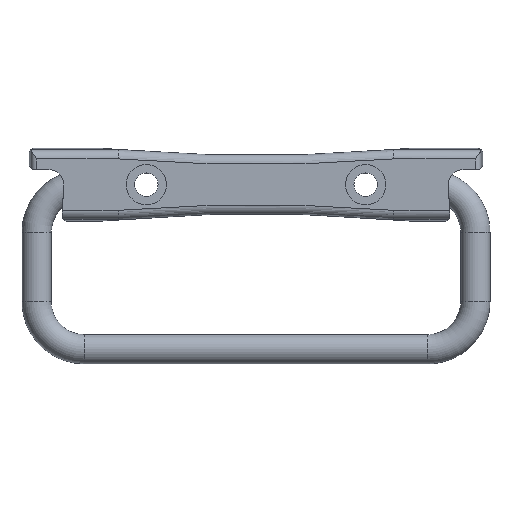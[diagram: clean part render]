
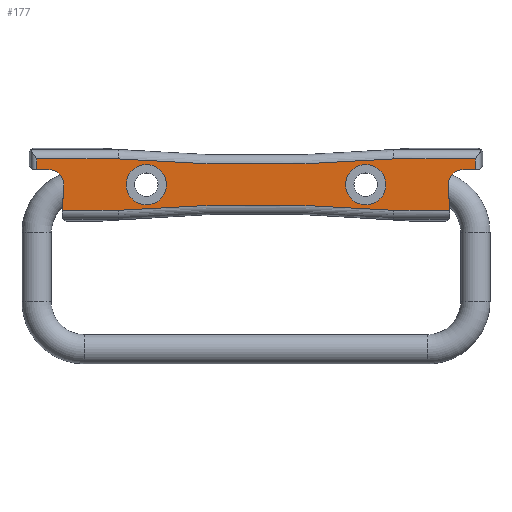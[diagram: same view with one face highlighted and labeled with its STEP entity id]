
A CAD part, top view. The second image highlights one B-rep face of the part: STEP entity #177.
In plain terms, the highlighted planar face has unit normal (0, 0, 1).
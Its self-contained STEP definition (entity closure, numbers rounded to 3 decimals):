
#177 = ADVANCED_FACE( '', ( #254, #255, #256 ), #257, .T. );
#254 = FACE_BOUND( '', #408, .T. );
#255 = FACE_BOUND( '', #409, .T. );
#256 = FACE_OUTER_BOUND( '', #410, .T. );
#257 = PLANE( '', #411 );
#408 = EDGE_LOOP( '', ( #611 ) );
#409 = EDGE_LOOP( '', ( #612 ) );
#410 = EDGE_LOOP( '', ( #613, #614, #615, #616, #617, #618, #619, #620, #621, #622, #623, #624, #625, #626 ) );
#411 = AXIS2_PLACEMENT_3D( '', #627, #628, #629 );
#611 = ORIENTED_EDGE( '', *, *, #1104, .F. );
#612 = ORIENTED_EDGE( '', *, *, #1105, .F. );
#613 = ORIENTED_EDGE( '', *, *, #1100, .T. );
#614 = ORIENTED_EDGE( '', *, *, #1106, .F. );
#615 = ORIENTED_EDGE( '', *, *, #1083, .T. );
#616 = ORIENTED_EDGE( '', *, *, #1082, .F. );
#617 = ORIENTED_EDGE( '', *, *, #1098, .T. );
#618 = ORIENTED_EDGE( '', *, *, #1107, .F. );
#619 = ORIENTED_EDGE( '', *, *, #1108, .T. );
#620 = ORIENTED_EDGE( '', *, *, #1109, .F. );
#621 = ORIENTED_EDGE( '', *, *, #1110, .T. );
#622 = ORIENTED_EDGE( '', *, *, #1111, .F. );
#623 = ORIENTED_EDGE( '', *, *, #1112, .T. );
#624 = ORIENTED_EDGE( '', *, *, #1113, .T. );
#625 = ORIENTED_EDGE( '', *, *, #1114, .T. );
#626 = ORIENTED_EDGE( '', *, *, #1115, .F. );
#627 = CARTESIAN_POINT( '', ( -60.5, -4.4, 16. ) );
#628 = DIRECTION( '', ( 0., 0., 1. ) );
#629 = DIRECTION( '', ( 1., 0., 0. ) );
#1082 = EDGE_CURVE( '', #1256, #1251, #1258, .T. );
#1083 = EDGE_CURVE( '', #1259, #1251, #1260, .T. );
#1098 = EDGE_CURVE( '', #1256, #1285, #1287, .T. );
#1100 = EDGE_CURVE( '', #1291, #1289, #1292, .T. );
#1104 = EDGE_CURVE( '', #1298, #1298, #1299, .T. );
#1105 = EDGE_CURVE( '', #1300, #1300, #1301, .T. );
#1106 = EDGE_CURVE( '', #1259, #1289, #1302, .T. );
#1107 = EDGE_CURVE( '', #1303, #1285, #1304, .T. );
#1108 = EDGE_CURVE( '', #1303, #1305, #1306, .T. );
#1109 = EDGE_CURVE( '', #1307, #1305, #1308, .T. );
#1110 = EDGE_CURVE( '', #1307, #1309, #1310, .T. );
#1111 = EDGE_CURVE( '', #1311, #1309, #1312, .T. );
#1112 = EDGE_CURVE( '', #1311, #1313, #1314, .T. );
#1113 = EDGE_CURVE( '', #1313, #1315, #1316, .T. );
#1114 = EDGE_CURVE( '', #1315, #1317, #1318, .T. );
#1115 = EDGE_CURVE( '', #1291, #1317, #1319, .T. );
#1251 = VERTEX_POINT( '', #1628 );
#1256 = VERTEX_POINT( '', #1653 );
#1258 = CIRCLE( '', #1656, 4.034 );
#1259 = VERTEX_POINT( '', #1657 );
#1260 = LINE( '', #1658, #1659 );
#1285 = VERTEX_POINT( '', #1743 );
#1287 = LINE( '', #1745, #1746 );
#1289 = VERTEX_POINT( '', #1748 );
#1291 = VERTEX_POINT( '', #1761 );
#1292 = LINE( '', #1762, #1763 );
#1298 = VERTEX_POINT( '', #1785 );
#1299 = CIRCLE( '', #1786, 5.5 );
#1300 = VERTEX_POINT( '', #1787 );
#1301 = CIRCLE( '', #1788, 5.5 );
#1302 = LINE( '', #1789, #1790 );
#1303 = VERTEX_POINT( '', #1791 );
#1304 = LINE( '', #1792, #1793 );
#1305 = VERTEX_POINT( '', #1794 );
#1306 = CIRCLE( '', #1795, 465.75 );
#1307 = VERTEX_POINT( '', #1796 );
#1308 = LINE( '', #1797, #1798 );
#1309 = VERTEX_POINT( '', #1799 );
#1310 = LINE( '', #1800, #1801 );
#1311 = VERTEX_POINT( '', #1802 );
#1312 = CIRCLE( '', #1803, 4.034 );
#1313 = VERTEX_POINT( '', #1804 );
#1314 = LINE( '', #1805, #1806 );
#1315 = VERTEX_POINT( '', #1807 );
#1316 = LINE( '', #1808, #1809 );
#1317 = VERTEX_POINT( '', #1810 );
#1318 = LINE( '', #1811, #1812 );
#1319 = CIRCLE( '', #1813, 465.75 );
#1628 = CARTESIAN_POINT( '', ( -56.648, -5.9, 16. ) );
#1653 = CARTESIAN_POINT( '', ( -52.618, -10.119, 16. ) );
#1656 = AXIS2_PLACEMENT_3D( '', #2170, #2171, #2172 );
#1657 = CARTESIAN_POINT( '', ( -59.993, -5.9, 16. ) );
#1658 = CARTESIAN_POINT( '', ( -60.5, -5.9, 16. ) );
#1659 = VECTOR( '', #2173, 1000. );
#1743 = CARTESIAN_POINT( '', ( -52.934, -17.027, 16. ) );
#1745 = CARTESIAN_POINT( '', ( -52.618, -10.119, 16. ) );
#1746 = VECTOR( '', #2189, 1000. );
#1748 = CARTESIAN_POINT( '', ( -59.993, -2.973, 16. ) );
#1761 = CARTESIAN_POINT( '', ( -37.684, -2.973, 16. ) );
#1762 = CARTESIAN_POINT( '', ( 62.5, -2.973, 16. ) );
#1763 = VECTOR( '', #2190, 1000. );
#1785 = CARTESIAN_POINT( '', ( 35.5, -10., 16. ) );
#1786 = AXIS2_PLACEMENT_3D( '', #2195, #2196, #2197 );
#1787 = CARTESIAN_POINT( '', ( -24.5, -10., 16. ) );
#1788 = AXIS2_PLACEMENT_3D( '', #2198, #2199, #2200 );
#1789 = CARTESIAN_POINT( '', ( -59.993, -20., 16. ) );
#1790 = VECTOR( '', #2201, 1000. );
#1791 = CARTESIAN_POINT( '', ( -37.684, -17.027, 16. ) );
#1792 = CARTESIAN_POINT( '', ( 62.5, -17.027, 16. ) );
#1793 = VECTOR( '', #2202, 1000. );
#1794 = CARTESIAN_POINT( '', ( 37.684, -17.027, 16. ) );
#1795 = AXIS2_PLACEMENT_3D( '', #2203, #2204, #2205 );
#1796 = CARTESIAN_POINT( '', ( 52.934, -17.027, 16. ) );
#1797 = CARTESIAN_POINT( '', ( 62.5, -17.027, 16. ) );
#1798 = VECTOR( '', #2206, 1000. );
#1799 = CARTESIAN_POINT( '', ( 52.618, -10.119, 16. ) );
#1800 = CARTESIAN_POINT( '', ( 52.998, -18.433, 16. ) );
#1801 = VECTOR( '', #2207, 1000. );
#1802 = CARTESIAN_POINT( '', ( 56.648, -5.9, 16. ) );
#1803 = AXIS2_PLACEMENT_3D( '', #2208, #2209, #2210 );
#1804 = CARTESIAN_POINT( '', ( 59.993, -5.9, 16. ) );
#1805 = CARTESIAN_POINT( '', ( 56.648, -5.9, 16. ) );
#1806 = VECTOR( '', #2211, 1000. );
#1807 = CARTESIAN_POINT( '', ( 59.993, -2.973, 16. ) );
#1808 = CARTESIAN_POINT( '', ( 59.993, -20., 16. ) );
#1809 = VECTOR( '', #2212, 1000. );
#1810 = CARTESIAN_POINT( '', ( 37.684, -2.973, 16. ) );
#1811 = CARTESIAN_POINT( '', ( 62.5, -2.973, 16. ) );
#1812 = VECTOR( '', #2213, 1000. );
#1813 = AXIS2_PLACEMENT_3D( '', #2214, #2215, #2216 );
#2170 = CARTESIAN_POINT( '', ( -56.648, -9.934, 16. ) );
#2171 = DIRECTION( '', ( 0., 0., 1. ) );
#2172 = DIRECTION( '', ( 1., 0., 0. ) );
#2173 = DIRECTION( '', ( 1., 0., 0. ) );
#2189 = DIRECTION( '', ( -0.046, -0.999, 0. ) );
#2190 = DIRECTION( '', ( -1., 0., 0. ) );
#2195 = CARTESIAN_POINT( '', ( 30., -10., 16. ) );
#2196 = DIRECTION( '', ( 0., 0., 1. ) );
#2197 = DIRECTION( '', ( 1., 0., 0. ) );
#2198 = CARTESIAN_POINT( '', ( -30., -10., 16. ) );
#2199 = DIRECTION( '', ( 0., 0., 1. ) );
#2200 = DIRECTION( '', ( 1., 0., 0. ) );
#2201 = DIRECTION( '', ( 0., 1., 0. ) );
#2202 = DIRECTION( '', ( -1., 0., 0. ) );
#2203 = CARTESIAN_POINT( '', ( 0., -481.25, 16. ) );
#2204 = DIRECTION( '', ( 0., 0., -1. ) );
#2205 = DIRECTION( '', ( -1., 0., 0. ) );
#2206 = DIRECTION( '', ( -1., 0., 0. ) );
#2207 = DIRECTION( '', ( -0.046, 0.999, 0. ) );
#2208 = CARTESIAN_POINT( '', ( 56.648, -9.934, 16. ) );
#2209 = DIRECTION( '', ( 0., 0., 1. ) );
#2210 = DIRECTION( '', ( 1., 0., 0. ) );
#2211 = DIRECTION( '', ( 1., 0., 0. ) );
#2212 = DIRECTION( '', ( 0., 1., 0. ) );
#2213 = DIRECTION( '', ( -1., 0., 0. ) );
#2214 = CARTESIAN_POINT( '', ( 0., 461.25, 16. ) );
#2215 = DIRECTION( '', ( 0., 0., 1. ) );
#2216 = DIRECTION( '', ( 1., 0., 0. ) );
